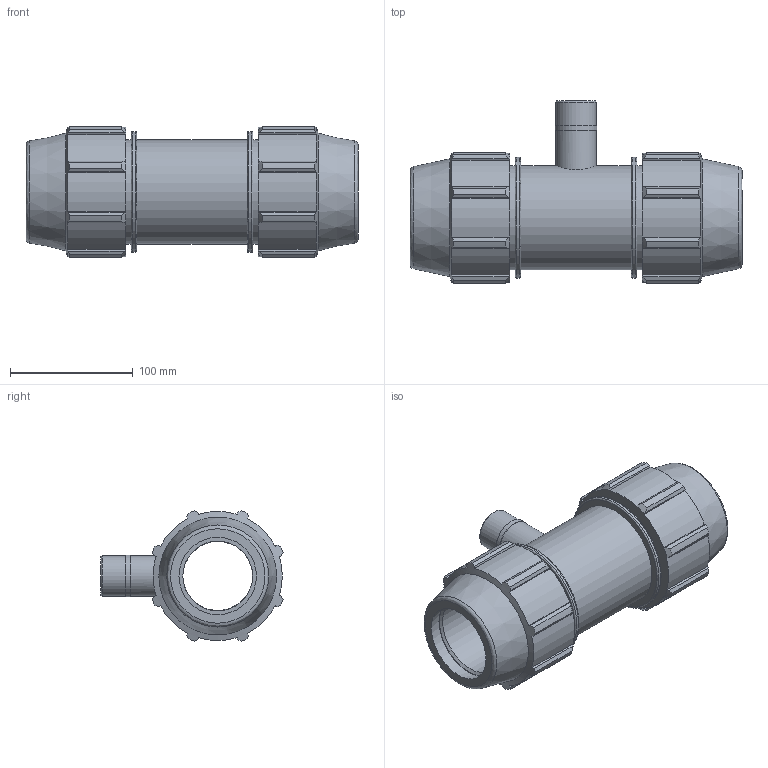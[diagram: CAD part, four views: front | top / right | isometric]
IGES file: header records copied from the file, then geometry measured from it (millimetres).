
Global section: file name: 078100063010_188100063010_0781060630100A.ipt; native system: Autodesk Inventor 2015; preprocessor: unknown; author: Кирилл,,11,0; organization: 20170224.180708; date: 20170606.172412; units: millimetre
Bounding box: 270 x 148.16 x 106.32 mm (x, y, z)
Volume: 1091669.1 mm3; surface area: 168048.5 mm2
Topology: 1 solids, 1 shells, 154 faces, 433 edges, 293 vertices
Faces by surface type: plane 79, cylinder 40, cone 21, revolution 14
Full cylindrical faces by diameter (mm): 33.249 x2, 33.914 x1, 84.75 x3, 98.31 x2
